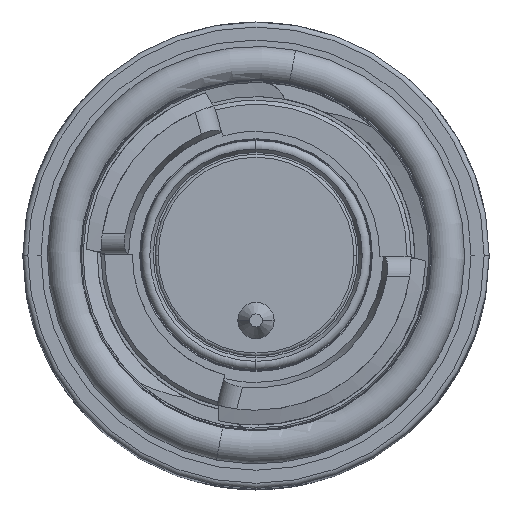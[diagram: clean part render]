
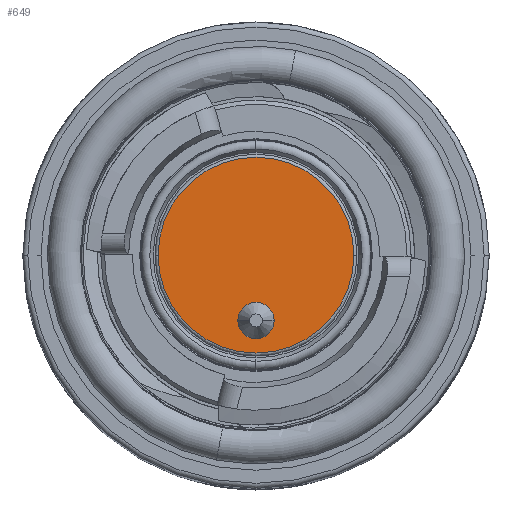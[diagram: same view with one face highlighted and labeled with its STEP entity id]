
A CAD part, top view. The second image highlights one B-rep face of the part: STEP entity #649.
In plain terms, the highlighted planar face has unit normal (0, 0, 1).
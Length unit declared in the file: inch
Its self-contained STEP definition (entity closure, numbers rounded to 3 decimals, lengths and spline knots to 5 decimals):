
#18 = CARTESIAN_POINT ( 'NONE',  ( 0., -0.12795, -0.1811 ) ) ;
#86 = EDGE_CURVE ( 'NONE', #2707, #353, #10319, .T. ) ;
#184 = DIRECTION ( 'NONE',  ( -1., 0., 0. ) ) ;
#353 = VERTEX_POINT ( 'NONE', #10577 ) ;
#649 = ADVANCED_FACE ( 'NONE', ( #6885, #7732 ), #1490, .F. ) ;
#1145 = DIRECTION ( 'NONE',  ( 0., 0., -1. ) ) ;
#1270 = CIRCLE ( 'NONE', #6831, 0.19134 ) ;
#1490 = PLANE ( 'NONE',  #6695 ) ;
#1532 = DIRECTION ( 'NONE',  ( -1., 0., 0. ) ) ;
#1578 = EDGE_CURVE ( 'NONE', #9230, #1861, #4419, .T. ) ;
#1701 = CARTESIAN_POINT ( 'NONE',  ( 0.19134, 0., -0.1811 ) ) ;
#1861 = VERTEX_POINT ( 'NONE', #1701 ) ;
#2707 = VERTEX_POINT ( 'NONE', #4999 ) ;
#3607 = ORIENTED_EDGE ( 'NONE', *, *, #11887, .T. ) ;
#4237 = DIRECTION ( 'NONE',  ( -1., 0., 0. ) ) ;
#4277 = DIRECTION ( 'NONE',  ( 0., 0., 1. ) ) ;
#4419 = CIRCLE ( 'NONE', #6910, 0.19134 ) ;
#4999 = CARTESIAN_POINT ( 'NONE',  ( -0.0354, -0.12795, -0.1811 ) ) ;
#5161 = CARTESIAN_POINT ( 'NONE',  ( -0.19134, 0., -0.1811 ) ) ;
#5500 = CARTESIAN_POINT ( 'NONE',  ( 0., 0., -0.1811 ) ) ;
#6050 = CARTESIAN_POINT ( 'NONE',  ( 0., 0., -0.1811 ) ) ;
#6217 = DIRECTION ( 'NONE',  ( 0., 0., 1. ) ) ;
#6295 = AXIS2_PLACEMENT_3D ( 'NONE', #7235, #8418, #10231 ) ;
#6451 = DIRECTION ( 'NONE',  ( -1., 0., 0. ) ) ;
#6695 = AXIS2_PLACEMENT_3D ( 'NONE', #6050, #11402, #4237 ) ;
#6831 = AXIS2_PLACEMENT_3D ( 'NONE', #5500, #6217, #6451 ) ;
#6885 = FACE_BOUND ( 'NONE', #8683, .T. ) ;
#6910 = AXIS2_PLACEMENT_3D ( 'NONE', #7173, #4277, #1532 ) ;
#7173 = CARTESIAN_POINT ( 'NONE',  ( 0., 0., -0.1811 ) ) ;
#7235 = CARTESIAN_POINT ( 'NONE',  ( 0., -0.12795, -0.1811 ) ) ;
#7280 = EDGE_LOOP ( 'NONE', ( #10667, #9471 ) ) ;
#7732 = FACE_OUTER_BOUND ( 'NONE', #7280, .T. ) ;
#8418 = DIRECTION ( 'NONE',  ( 0., 0., -1. ) ) ;
#8683 = EDGE_LOOP ( 'NONE', ( #3607, #10318 ) ) ;
#9230 = VERTEX_POINT ( 'NONE', #5161 ) ;
#9418 = EDGE_CURVE ( 'NONE', #1861, #9230, #1270, .T. ) ;
#9471 = ORIENTED_EDGE ( 'NONE', *, *, #9418, .T. ) ;
#9734 = CIRCLE ( 'NONE', #10310, 0.0354 ) ;
#10231 = DIRECTION ( 'NONE',  ( -1., 0., 0. ) ) ;
#10310 = AXIS2_PLACEMENT_3D ( 'NONE', #18, #1145, #184 ) ;
#10318 = ORIENTED_EDGE ( 'NONE', *, *, #86, .T. ) ;
#10319 = CIRCLE ( 'NONE', #6295, 0.0354 ) ;
#10577 = CARTESIAN_POINT ( 'NONE',  ( 0.0354, -0.12795, -0.1811 ) ) ;
#10667 = ORIENTED_EDGE ( 'NONE', *, *, #1578, .T. ) ;
#11402 = DIRECTION ( 'NONE',  ( 0., 0., -1. ) ) ;
#11887 = EDGE_CURVE ( 'NONE', #353, #2707, #9734, .T. ) ;
